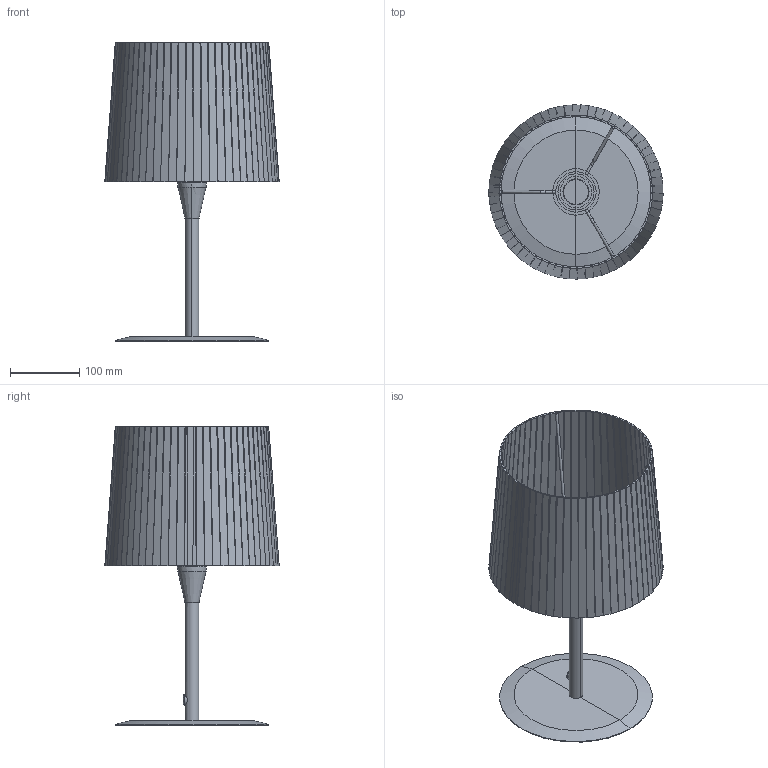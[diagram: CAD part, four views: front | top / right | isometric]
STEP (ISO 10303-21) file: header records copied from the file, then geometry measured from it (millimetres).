
FILE_DESCRIPTION(/* description */ (''),/* implementation_level */ '2;1');
FILE_NAME(/* name */ 'C:\Users\Franco Sartori E\Documents\FARO\DUPLICADO\Modelos\01_Digitalizados\2021\0_MAMBO_SAMBA_CONGA\03_Publicación\64311-39.stp',/* time_stamp */ '2021-02-08T13:03:46+01:00',/* author */ ('Franco Sartori E'),/* organization */ (''),/* preprocessor_version */ 'ST-DEVELOPER v18.1',/* originating_system */ 'AutoCAD Mechanical',/* authorisation */ '');
FILE_SCHEMA (('AUTOMOTIVE_DESIGN { 1 0 10303 214 3 1 1 }'));
Length unit declared in the file: millimetre
Products named in the file (5): Product; 64310_64311_STR - STR-561689-Export; MAMBO - SH-570166-Export; SAMBA - SH-570167-Export; CONGA - SH-571859-Export
Assembly tree (4 placements, depth 2):
  Product
    64310_64311_STR - STR-561689-Export
    MAMBO - SH-570166-Export
    SAMBA - SH-570167-Export
    CONGA - SH-571859-Export
Bounding box: 251.05 x 250.95 x 429.86 mm (x, y, z)
Volume: 677454.5 mm3; surface area: 521238.6 mm2
Topology: 74 solids, 74 shells, 638 faces, 1390 edges, 896 vertices
Faces by surface type: plane 570, cylinder 44, torus 12, cone 8, bspline 4
Entity records: 17587 total; most frequent: CARTESIAN_POINT 3551, ORIENTED_EDGE 2780, DIRECTION 2720, EDGE_CURVE 1390, LINE 1270, VECTOR 1270, VERTEX_POINT 896, AXIS2_PLACEMENT_3D 725
